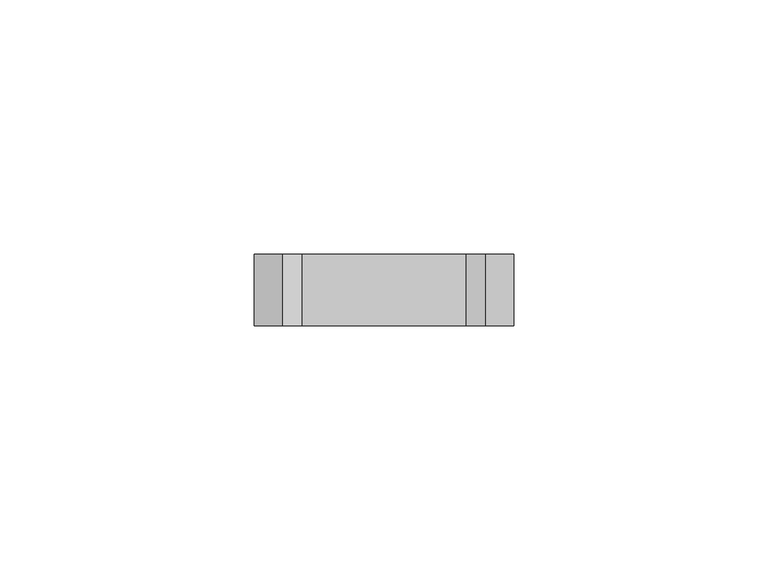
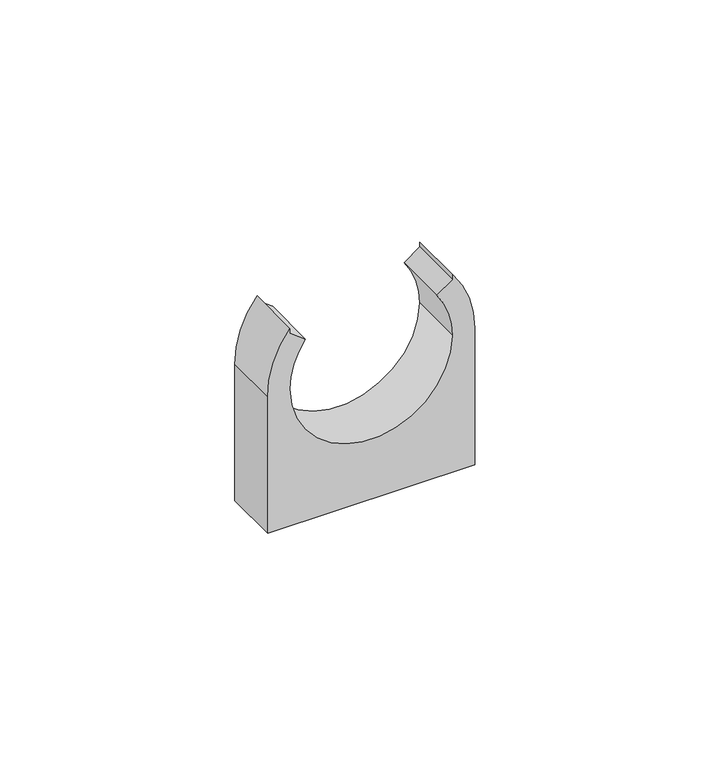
"""IFC4 building model written with IfcOpenShell, lengths in millimetres: cable carrier fitting geometry."""

from ifc_helpers import new_model, si_unit, point, frame, frame_2d, origin, place, context, project, spatial, polyline, circle_curve, trimmed, segment, composite_curve, outline, extrude, source, transform, mapped, element, save


def cable_carrier_fitting_54d621f1(model_context):
    return source(origin(), model_context, "Body", "SweptSolid", [
        extrude(outline(composite_curve([segment(polyline([(0.0, -25.5), (0.0, 25.5), (35.5, 25.5)]), True, "CONTINUOUS"), segment(trimmed(circle_curve(frame_2d((35.5, 0.0)), 25.5), [point((35.5, 25.5))], [point((51.319292, 20.0))], False, "CARTESIAN"), True, "CONTINUOUS"), segment(polyline([(51.319292, 20.0), (50.0498344, 20.0), (47.2657504, 16.1730368)]), True, "CONTINUOUS"), segment(trimmed(circle_curve(frame_2d((35.5, 0.0)), 20.0), [point((47.2657504, 16.1730368))], [point((35.5, 20.0))], True, "CARTESIAN"), True, "CONTINUOUS"), segment(trimmed(circle_curve(frame_2d((35.5, 0.0)), 20.0), [point((35.5, 20.0))], [point((35.5, -20.0))], True, "CARTESIAN"), True, "CONTINUOUS"), segment(trimmed(circle_curve(frame_2d((35.5, 0.0)), 20.0), [point((35.5, -20.0))], [point((47.2657504, -16.1730368))], True, "CARTESIAN"), True, "CONTINUOUS"), segment(polyline([(47.2657504, -16.1730368), (50.0498344, -20.0), (51.319292, -20.0)]), True, "CONTINUOUS"), segment(trimmed(circle_curve(frame_2d((35.5, 0.0)), 25.5), [point((51.319292, -20.0))], [point((35.5, -25.5))], False, "CARTESIAN"), True, "CONTINUOUS"), segment(polyline([(35.5, -25.5), (0.0, -25.5)]), True, "CONTINUOUS")], self_intersect=False)), frame((0.0, -7.0, 0.0), z_axis=(0.0, 1.0, 0.0), x_axis=(0.0, 0.0, 1.0)), (0.0, 0.0, 1.0), 14.0),
    ])


if __name__ == "__main__":
    model = new_model("IFC4")
    model_context = context("Model", 3, world=origin())
    ifc_project = project(units=[si_unit("LENGTHUNIT", "METRE", prefix="MILLI")], contexts=[model_context])
    site = spatial("IfcSite", under=ifc_project)
    building = spatial("IfcBuilding", under=site)
    placement = place(None, origin())
    cable_carrier_fitting_shape = cable_carrier_fitting_54d621f1(model_context)
    element("IfcCableCarrierFitting", 1, at=placement, inside=building, context=model_context, shape_type="MappedRepresentation", body=[
        mapped(cable_carrier_fitting_shape, transform((0.0, 0.0, 0.0), x_axis=(1.0, 0.0, 0.0), y_axis=(0.0, 1.0, 0.0), z_axis=(0.0, 0.0, 1.0))),
    ])
    save(model, "model.ifc")
